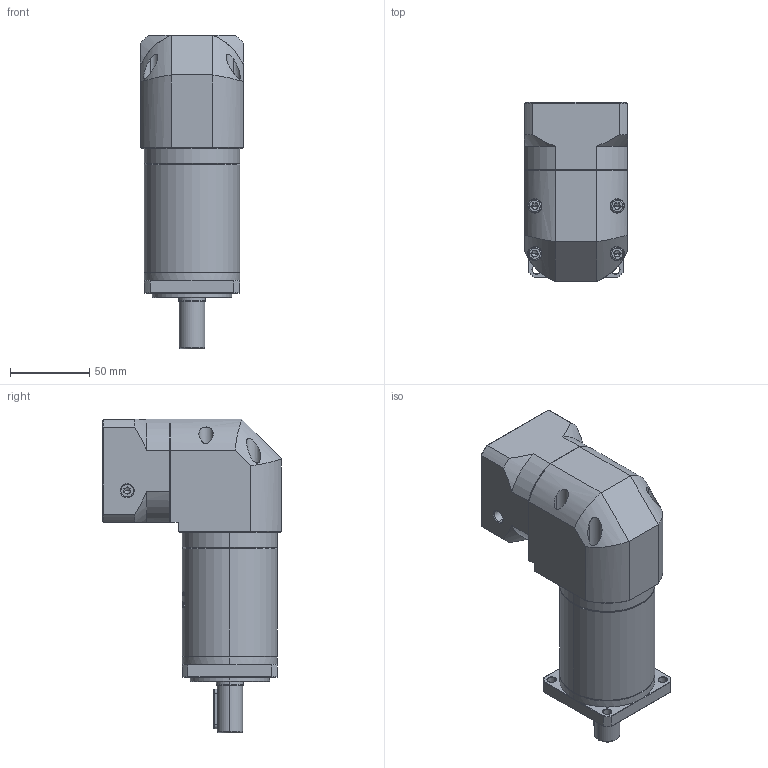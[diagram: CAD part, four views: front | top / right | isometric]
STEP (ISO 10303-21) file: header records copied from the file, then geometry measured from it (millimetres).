
FILE_DESCRIPTION (( 'STEP AP214' ), '1' );
FILE_NAME ('ZFR060-D16-L3-P2-14-60-75-M5.step', '2023-08-17T03:36:17', ( '' ), ( '' ), 'SwSTEP 2.0', 'SolidWorks 2016', '' );
FILE_SCHEMA (( 'AUTOMOTIVE_DESIGN' ));
Length unit declared in the file: millimetre
Products named in the file (1): ZFR060-D16-L3-P2-14-60-75-M5
Bounding box: 65 x 112.7 x 197.5 mm (x, y, z)
Volume: 651923.7 mm3; surface area: 86579 mm2
Topology: 5 solids, 6 shells, 1922 faces, 5153 edges, 3328 vertices
Faces by surface type: plane 847, cylinder 407, bspline 354, cone 290, torus 24
Entity records: 106626 total; most frequent: CARTESIAN_POINT 41558, ORIENTED_EDGE 10262, DIRECTION 7684, EDGE_CURVE 5131, VERTEX_POINT 3328, LINE 2614, VECTOR 2614, AXIS2_PLACEMENT_3D 2535
